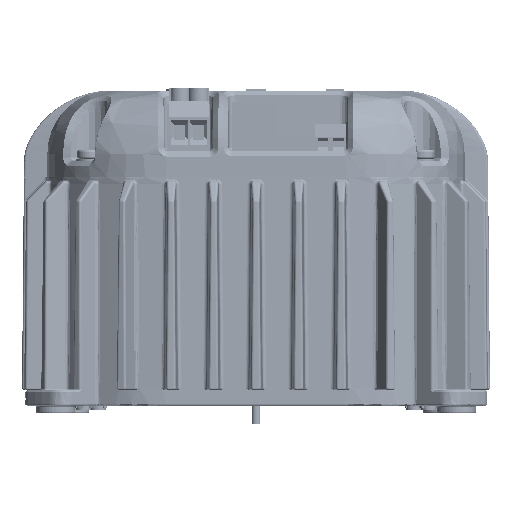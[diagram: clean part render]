
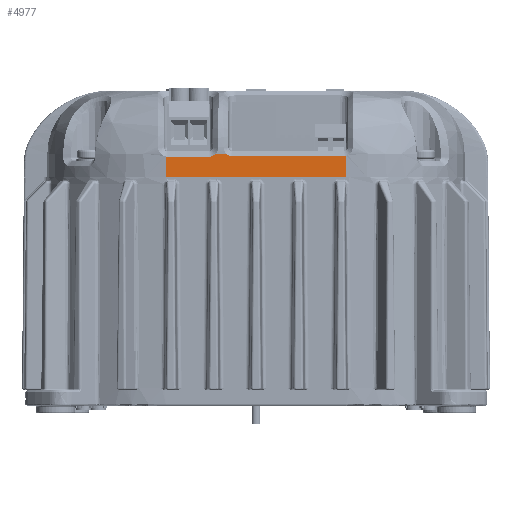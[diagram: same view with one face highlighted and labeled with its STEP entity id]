
A CAD part, left-side view. The second image highlights one B-rep face of the part: STEP entity #4977.
In plain terms, the highlighted planar face has unit normal (-1, 0, 0).
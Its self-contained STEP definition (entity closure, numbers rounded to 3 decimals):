
#4977 = ADVANCED_FACE( '', ( #12040 ), #12041, .F. );
#12040 = FACE_OUTER_BOUND( '', #31854, .T. );
#12041 = PLANE( '', #31855 );
#31854 = EDGE_LOOP( '', ( #65359, #65360, #65361, #65362, #65363, #65364, #65365, #65366, #65367, #65368 ) );
#31855 = AXIS2_PLACEMENT_3D( '', #65369, #65370, #65371 );
#65359 = ORIENTED_EDGE( '', *, *, #86359, .T. );
#65360 = ORIENTED_EDGE( '', *, *, #82355, .T. );
#65361 = ORIENTED_EDGE( '', *, *, #86118, .T. );
#65362 = ORIENTED_EDGE( '', *, *, #84170, .T. );
#65363 = ORIENTED_EDGE( '', *, *, #86360, .F. );
#65364 = ORIENTED_EDGE( '', *, *, #82835, .T. );
#65365 = ORIENTED_EDGE( '', *, *, #83153, .T. );
#65366 = ORIENTED_EDGE( '', *, *, #86361, .T. );
#65367 = ORIENTED_EDGE( '', *, *, #86362, .T. );
#65368 = ORIENTED_EDGE( '', *, *, #86363, .T. );
#65369 = CARTESIAN_POINT( '', ( -128.88, 29.159, 27.94 ) );
#65370 = DIRECTION( '', ( 1., 0., 0. ) );
#65371 = DIRECTION( '', ( 0., 1., 0. ) );
#82355 = EDGE_CURVE( '', #92797, #92795, #92798, .T. );
#82835 = EDGE_CURVE( '', #93646, #93644, #93647, .T. );
#83153 = EDGE_CURVE( '', #93644, #94185, #94187, .T. );
#84170 = EDGE_CURVE( '', #95878, #95876, #95879, .T. );
#86118 = EDGE_CURVE( '', #92795, #95878, #98957, .T. );
#86359 = EDGE_CURVE( '', #99311, #92797, #99312, .T. );
#86360 = EDGE_CURVE( '', #93646, #95876, #99313, .T. );
#86361 = EDGE_CURVE( '', #94185, #99012, #99314, .T. );
#86362 = EDGE_CURVE( '', #99012, #99315, #99316, .F. );
#86363 = EDGE_CURVE( '', #99315, #99311, #99317, .T. );
#92795 = VERTEX_POINT( '', #110881 );
#92797 = VERTEX_POINT( '', #110886 );
#92798 = CIRCLE( '', #110887, 3.032 );
#93644 = VERTEX_POINT( '', #113786 );
#93646 = VERTEX_POINT( '', #113789 );
#93647 = CIRCLE( '', #113790, 2.803 );
#94185 = VERTEX_POINT( '', #116283 );
#94187 = LINE( '', #116286, #116287 );
#95876 = VERTEX_POINT( '', #122049 );
#95878 = VERTEX_POINT( '', #122051 );
#95879 = LINE( '', #122052, #122053 );
#98957 = LINE( '', #134594, #134595 );
#99012 = VERTEX_POINT( '', #134750 );
#99311 = VERTEX_POINT( '', #135971 );
#99312 = LINE( '', #135972, #135973 );
#99313 = LINE( '', #135974, #135975 );
#99314 = B_SPLINE_CURVE_WITH_KNOTS( '', 2, ( #135976, #135977, #135978 ), .UNSPECIFIED., .F., .F., ( 3, 3 ), ( 0., 1. ), .UNSPECIFIED. );
#99315 = VERTEX_POINT( '', #135979 );
#99316 = LINE( '', #135980, #135981 );
#99317 = B_SPLINE_CURVE_WITH_KNOTS( '', 2, ( #135982, #135983, #135984, #135985, #135986 ), .UNSPECIFIED., .F., .F., ( 3, 2, 3 ), ( 0., 0.5, 1. ), .UNSPECIFIED. );
#110881 = CARTESIAN_POINT( '', ( -128.88, 29.159, 6.702 ) );
#110886 = CARTESIAN_POINT( '', ( -128.88, 28.459, 6.62 ) );
#110887 = AXIS2_PLACEMENT_3D( '', #159720, #159721, #159722 );
#113786 = CARTESIAN_POINT( '', ( -128.88, -28.358, 6.849 ) );
#113789 = CARTESIAN_POINT( '', ( -128.88, -29.159, 6.966 ) );
#113790 = AXIS2_PLACEMENT_3D( '', #160251, #160252, #160253 );
#116283 = CARTESIAN_POINT( '', ( -128.88, 7.631, 6.849 ) );
#116286 = CARTESIAN_POINT( '', ( -128.88, 7.631, 6.849 ) );
#116287 = VECTOR( '', #160610, 1000. );
#122049 = CARTESIAN_POINT( '', ( -128.88, -29.159, 0. ) );
#122051 = CARTESIAN_POINT( '', ( -128.88, 29.159, 0. ) );
#122052 = CARTESIAN_POINT( '', ( -128.88, 29.159, 0. ) );
#122053 = VECTOR( '', #161802, 1000. );
#134594 = CARTESIAN_POINT( '', ( -128.88, 29.159, 27.94 ) );
#134595 = VECTOR( '', #163822, 1000. );
#134750 = CARTESIAN_POINT( '', ( -128.88, 9.556, 7.62 ) );
#135971 = CARTESIAN_POINT( '', ( -128.88, 15.229, 6.62 ) );
#135972 = CARTESIAN_POINT( '', ( -128.88, 28.459, 6.62 ) );
#135973 = VECTOR( '', #164073, 1000. );
#135974 = CARTESIAN_POINT( '', ( -128.88, -29.159, 27.94 ) );
#135975 = VECTOR( '', #164074, 1000. );
#135976 = CARTESIAN_POINT( '', ( -128.88, 7.631, 6.849 ) );
#135977 = CARTESIAN_POINT( '', ( -128.88, 8.749, 6.85 ) );
#135978 = CARTESIAN_POINT( '', ( -128.88, 9.561, 7.62 ) );
#135979 = CARTESIAN_POINT( '', ( -128.88, 12.982, 7.62 ) );
#135980 = CARTESIAN_POINT( '', ( -128.88, 29.159, 7.62 ) );
#135981 = VECTOR( '', #164075, 1000. );
#135982 = CARTESIAN_POINT( '', ( -128.88, 12.978, 7.62 ) );
#135983 = CARTESIAN_POINT( '', ( -128.88, 13.45, 7.098 ) );
#135984 = CARTESIAN_POINT( '', ( -128.88, 14.103, 6.837 ) );
#135985 = CARTESIAN_POINT( '', ( -128.88, 14.644, 6.62 ) );
#135986 = CARTESIAN_POINT( '', ( -128.88, 15.229, 6.62 ) );
#159720 = CARTESIAN_POINT( '', ( -128.88, 28.459, 9.652 ) );
#159721 = DIRECTION( '', ( 1., 0., 0. ) );
#159722 = DIRECTION( '', ( 0., 1., 0. ) );
#160251 = CARTESIAN_POINT( '', ( -128.88, -28.358, 9.652 ) );
#160252 = DIRECTION( '', ( 1., 0., 0. ) );
#160253 = DIRECTION( '', ( 0., 1., 0. ) );
#160610 = DIRECTION( '', ( 0., 1., 0. ) );
#161802 = DIRECTION( '', ( 0., -1., 0. ) );
#163822 = DIRECTION( '', ( 0., 0., -1. ) );
#164073 = DIRECTION( '', ( 0., 1., 0. ) );
#164074 = DIRECTION( '', ( 0., 0., -1. ) );
#164075 = DIRECTION( '', ( 0., -1., 0. ) );
